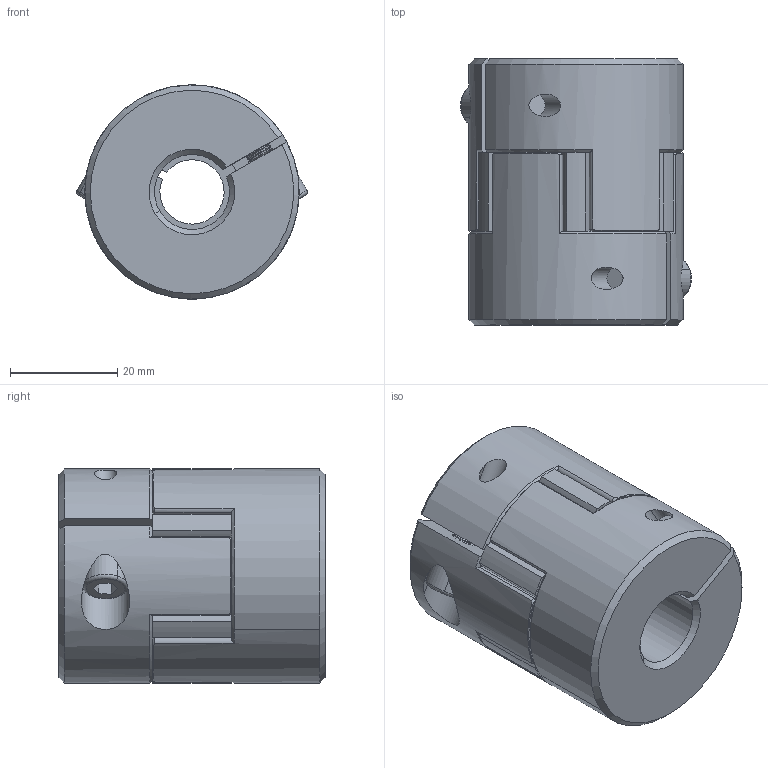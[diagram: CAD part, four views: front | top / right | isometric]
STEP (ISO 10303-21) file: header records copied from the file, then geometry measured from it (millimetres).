
FILE_DESCRIPTION (( 'STEP AP203' ), '1' );
FILE_NAME ('LF-B-D40L50-12-14.STEP', '2021-10-25T02:44:00', ( '' ), ( '' ), 'SwSTEP 2.0', 'SolidWorks 2018', '' );
FILE_SCHEMA (( 'CONFIG_CONTROL_DESIGN' ));
Length unit declared in the file: millimetre
Products named in the file (1): LF-B-D40L50-12-14
Bounding box: 43.11 x 49.7 x 40 mm (x, y, z)
Volume: 52235.9 mm3; surface area: 14659.4 mm2
Topology: 1 solids, 7 shells, 471 faces, 1117 edges, 662 vertices
Faces by surface type: cone 170, cylinder 169, plane 128, torus 4
Entity records: 13972 total; most frequent: CARTESIAN_POINT 2895, DIRECTION 2509, ORIENTED_EDGE 2226, EDGE_CURVE 1113, AXIS2_PLACEMENT_3D 1040, VERTEX_POINT 662, CIRCLE 568, EDGE_LOOP 487
